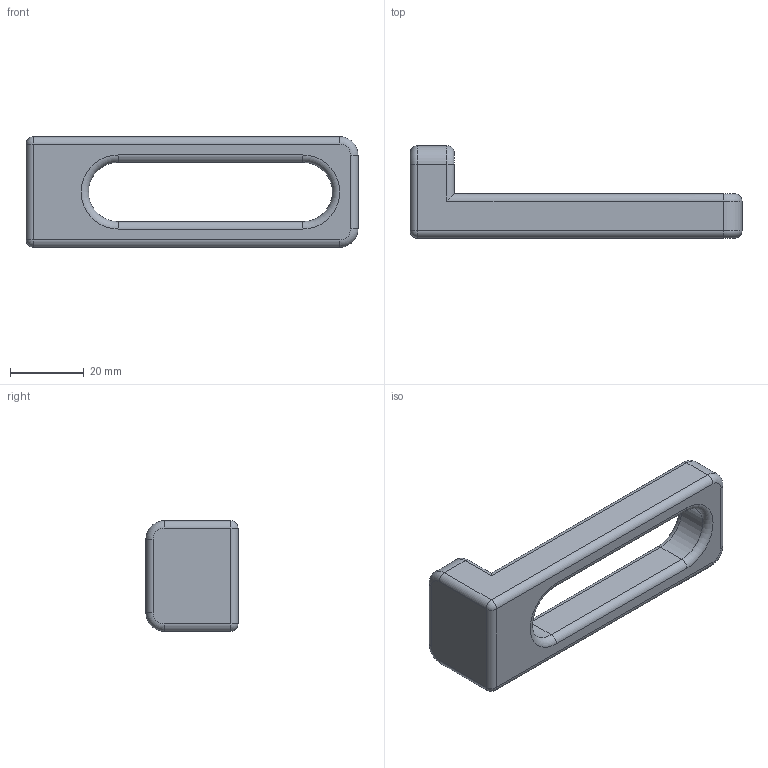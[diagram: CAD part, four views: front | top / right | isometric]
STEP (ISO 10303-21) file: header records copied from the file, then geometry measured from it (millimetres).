
FILE_DESCRIPTION (( 'STEP AP203' ), '1' );
FILE_NAME ('160108.STEP', '2020-07-07T14:15:55', ( '' ), ( '' ), 'SwSTEP 2.0', 'SolidWorks 2019', '' );
FILE_SCHEMA (( 'CONFIG_CONTROL_DESIGN' ));
Length unit declared in the file: millimetre
Products named in the file (1): 160108
Bounding box: 90 x 25 x 30 mm (x, y, z)
Volume: 23994.4 mm3; surface area: 8289.7 mm2
Topology: 1 solids, 1 shells, 49 faces, 111 edges, 62 vertices
Faces by surface type: cylinder 24, torus 13, plane 10, sphere 2
Entity records: 1427 total; most frequent: DIRECTION 266, CARTESIAN_POINT 227, ORIENTED_EDGE 218, AXIS2_PLACEMENT_3D 109, EDGE_CURVE 109, VERTEX_POINT 62, CIRCLE 59, EDGE_LOOP 51
